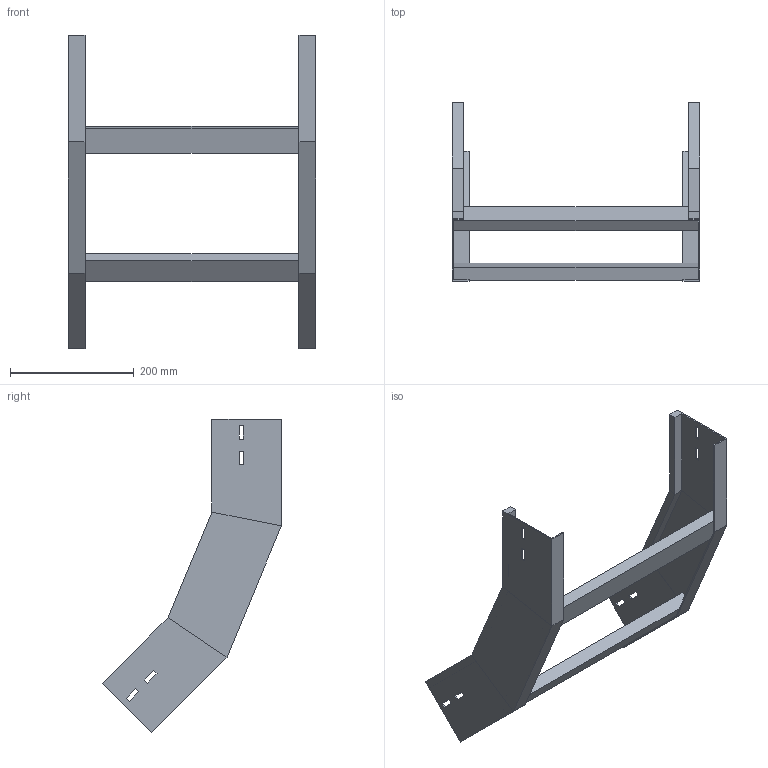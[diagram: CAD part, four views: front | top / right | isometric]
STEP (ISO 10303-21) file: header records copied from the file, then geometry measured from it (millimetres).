
FILE_DESCRIPTION (( 'STEP AP214' ), '1' );
FILE_NAME ('A2X31B3J400XX.step', '2025-03-20T10:06:27', ( '' ), ( '' ), 'SwSTEP 2.0', 'SolidWorks 2023', '' );
FILE_SCHEMA (( 'AUTOMOTIVE_DESIGN' ));
Length unit declared in the file: millimetre
Products named in the file (3): A2X31B3J400XX; LONGH.SALITA_45°_H112.5_R300; TRAVERSINO_400
Assembly tree (4 placements, depth 2):
  A2X31B3J400XX
    LONGH.SALITA_45°_H112.5_R300  x2
    TRAVERSINO_400  x2
Bounding box: 400 x 289.26 x 506.29 mm (x, y, z)
Volume: 1122600.5 mm3; surface area: 430555.8 mm2
Topology: 4 solids, 4 shells, 96 faces, 232 edges, 144 vertices
Faces by surface type: plane 96
Entity records: 1472 total; most frequent: CARTESIAN_POINT 243, ORIENTED_EDGE 232, DIRECTION 226, VECTOR 116, LINE 116, EDGE_CURVE 116, VERTEX_POINT 72, EDGE_LOOP 56
